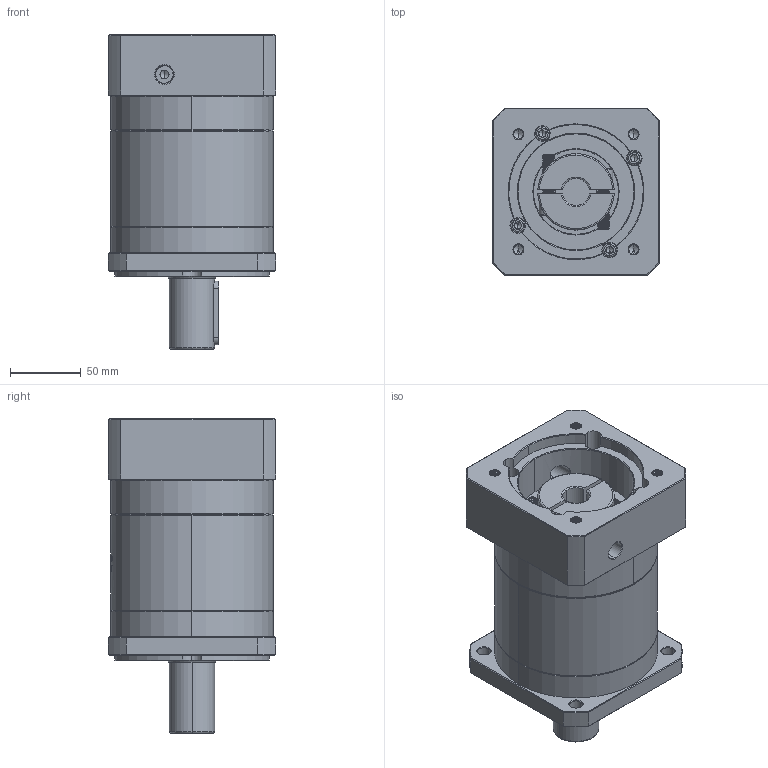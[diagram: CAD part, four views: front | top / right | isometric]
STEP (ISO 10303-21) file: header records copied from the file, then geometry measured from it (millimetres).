
FILE_DESCRIPTION (( 'STEP AP214' ), '1' );
FILE_NAME ('ZF120A-D32-L2-P2-19-95-115-M8.step', '2023-08-27T04:45:20', ( '' ), ( '' ), 'SwSTEP 2.0', 'SolidWorks 2016', '' );
FILE_SCHEMA (( 'AUTOMOTIVE_DESIGN' ));
Length unit declared in the file: millimetre
Products named in the file (1): ZF120A-D32-L2-P2-19-95-115-M8
Bounding box: 118 x 118 x 222 mm (x, y, z)
Volume: 1774953.5 mm3; surface area: 177131.8 mm2
Topology: 6 solids, 6 shells, 2242 faces, 5987 edges, 3846 vertices
Faces by surface type: plane 1034, bspline 439, cylinder 429, cone 340
Entity records: 124123 total; most frequent: CARTESIAN_POINT 49038, ORIENTED_EDGE 11914, DIRECTION 8635, EDGE_CURVE 5957, VERTEX_POINT 3846, LINE 3107, VECTOR 3107, AXIS2_PLACEMENT_3D 2764
